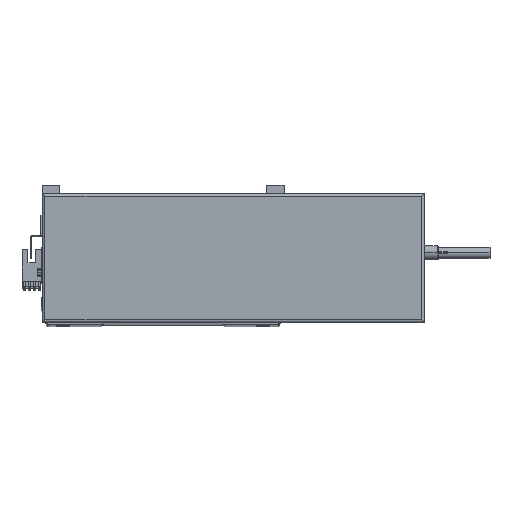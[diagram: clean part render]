
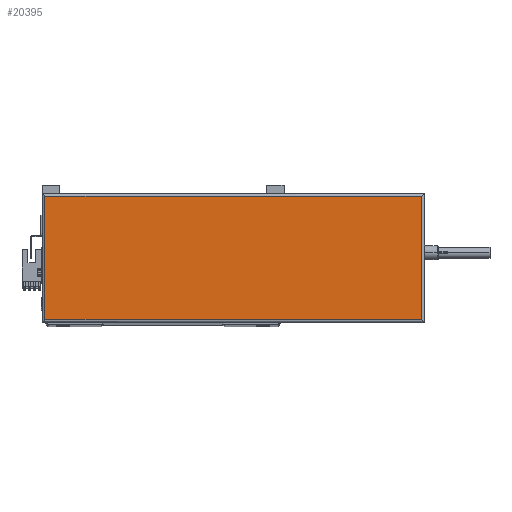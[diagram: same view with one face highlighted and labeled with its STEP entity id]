
A CAD part, top view. The second image highlights one B-rep face of the part: STEP entity #20395.
In plain terms, the highlighted planar face has unit normal (0, 0, 1).
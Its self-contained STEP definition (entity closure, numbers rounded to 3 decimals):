
#809 = CARTESIAN_POINT ( 'NONE',  ( 265., 2., 44.8 ) ) ;
#1398 = EDGE_CURVE ( 'NONE', #4754, #49123, #6155, .T. ) ;
#1582 = AXIS2_PLACEMENT_3D ( 'NONE', #19657, #47512, #3557 ) ;
#3557 = DIRECTION ( 'NONE',  ( 1., 0., 0. ) ) ;
#4754 = VERTEX_POINT ( 'NONE', #37023 ) ;
#5442 = CARTESIAN_POINT ( 'NONE',  ( 2., 88., 44.8 ) ) ;
#6155 = LINE ( 'NONE', #51000, #6765 ) ;
#6765 = VECTOR ( 'NONE', #11053, 1000. ) ;
#7827 = EDGE_LOOP ( 'NONE', ( #42825, #33485, #48962, #27728 ) ) ;
#10619 = VECTOR ( 'NONE', #49541, 1000. ) ;
#11053 = DIRECTION ( 'NONE',  ( -1., 0., 0. ) ) ;
#11197 = CARTESIAN_POINT ( 'NONE',  ( 2., 0., 44.8 ) ) ;
#12834 = VERTEX_POINT ( 'NONE', #46214 ) ;
#16278 = CARTESIAN_POINT ( 'NONE',  ( 267., 2., 44.8 ) ) ;
#16353 = LINE ( 'NONE', #11197, #37564 ) ;
#17583 = EDGE_CURVE ( 'NONE', #37676, #4754, #35742, .T. ) ;
#19657 = CARTESIAN_POINT ( 'NONE',  ( 133.5, 45., 44.8 ) ) ;
#20395 = ADVANCED_FACE ( 'NONE', ( #26699 ), #22408, .T. ) ;
#22408 = PLANE ( 'NONE',  #1582 ) ;
#26699 = FACE_OUTER_BOUND ( 'NONE', #7827, .T. ) ;
#27728 = ORIENTED_EDGE ( 'NONE', *, *, #41683, .T. ) ;
#29488 = DIRECTION ( 'NONE',  ( 0., 1., 0. ) ) ;
#32666 = CARTESIAN_POINT ( 'NONE',  ( 265., 90., 44.8 ) ) ;
#33076 = EDGE_CURVE ( 'NONE', #49123, #12834, #16353, .T. ) ;
#33185 = LINE ( 'NONE', #16278, #10619 ) ;
#33485 = ORIENTED_EDGE ( 'NONE', *, *, #1398, .T. ) ;
#35742 = LINE ( 'NONE', #32666, #38791 ) ;
#37023 = CARTESIAN_POINT ( 'NONE',  ( 265., 88., 44.8 ) ) ;
#37564 = VECTOR ( 'NONE', #39967, 1000. ) ;
#37676 = VERTEX_POINT ( 'NONE', #809 ) ;
#38791 = VECTOR ( 'NONE', #29488, 1000. ) ;
#39967 = DIRECTION ( 'NONE',  ( 0., -1., 0. ) ) ;
#41683 = EDGE_CURVE ( 'NONE', #12834, #37676, #33185, .T. ) ;
#42825 = ORIENTED_EDGE ( 'NONE', *, *, #17583, .T. ) ;
#46214 = CARTESIAN_POINT ( 'NONE',  ( 2., 2., 44.8 ) ) ;
#47512 = DIRECTION ( 'NONE',  ( 0., 0., 1. ) ) ;
#48962 = ORIENTED_EDGE ( 'NONE', *, *, #33076, .T. ) ;
#49123 = VERTEX_POINT ( 'NONE', #5442 ) ;
#49541 = DIRECTION ( 'NONE',  ( 1., 0., 0. ) ) ;
#51000 = CARTESIAN_POINT ( 'NONE',  ( 0., 88., 44.8 ) ) ;
